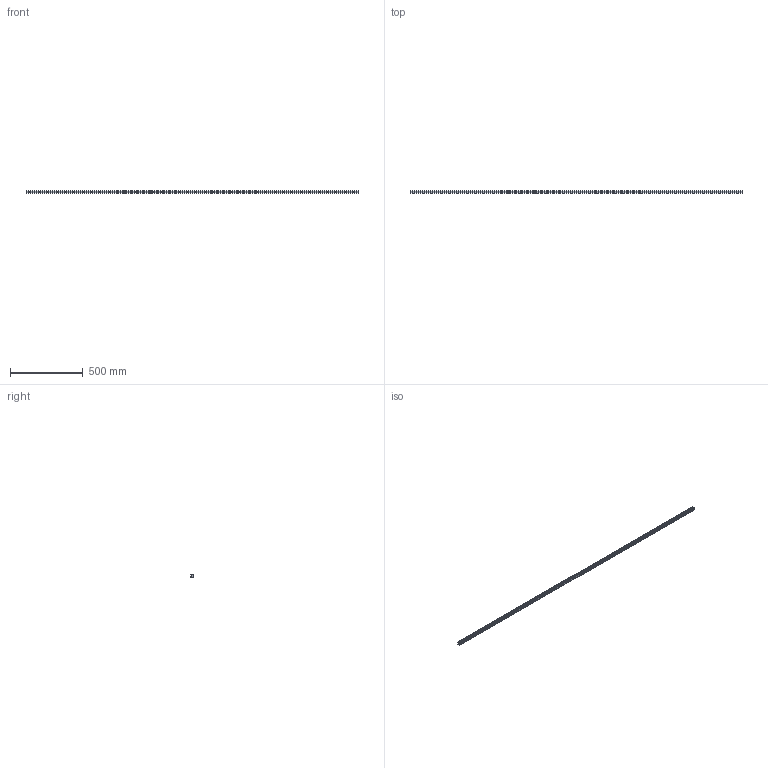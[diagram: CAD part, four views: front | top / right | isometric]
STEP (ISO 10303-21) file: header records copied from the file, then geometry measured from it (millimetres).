
FILE_DESCRIPTION (( 'STEP AP203' ), '1' );
FILE_NAME ('L1018.20R-2280.step', '2023-08-06T09:12:02', ( '' ), ( '' ), 'SwSTEP 2.0', 'SolidWorks 2019', '' );
FILE_SCHEMA (( 'CONFIG_CONTROL_DESIGN' ));
Length unit declared in the file: millimetre
Products named in the file (1): L1018.20R-2280
Bounding box: 2280 x 19.3 x 20 mm (x, y, z)
Volume: 723052.5 mm3; surface area: 193062.4 mm2
Topology: 1 solids, 1 shells, 371 faces, 841 edges, 472 vertices
Faces by surface type: cylinder 155, cone 152, plane 64
Entity records: 9890 total; most frequent: DIRECTION 1895, CARTESIAN_POINT 1609, ORIENTED_EDGE 1530, EDGE_CURVE 765, AXIS2_PLACEMENT_3D 758, VERTEX_POINT 472, EDGE_LOOP 447, CIRCLE 386
